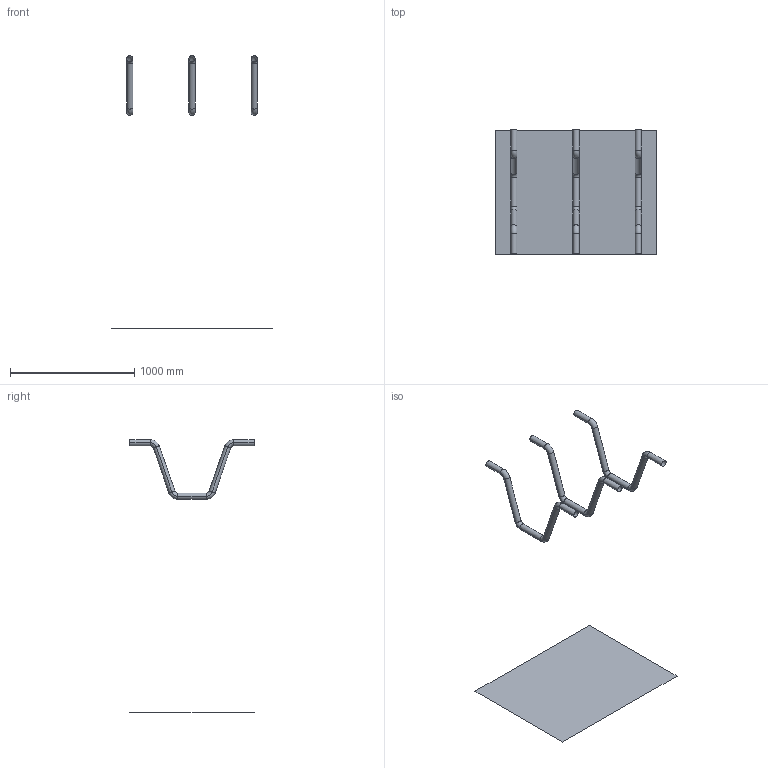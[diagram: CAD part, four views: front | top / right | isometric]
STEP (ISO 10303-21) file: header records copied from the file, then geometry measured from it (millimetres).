
FILE_DESCRIPTION(('CATIA V5 STEP Exchange'),'2;1');
FILE_NAME('C:\_Andres\UNIVERSIDAD\IQS\ASIGNATURAS\DAO\EXF\EXF-16172c\2inicio\Salazar_Martin_Ej08_v30.stp','2017-03-05T21:54:57+00:00',('none'),('none'),'CATIA Version 5-6 Release 2014 SP1 HF18','CATIA V5 STEP AP203','none');
FILE_SCHEMA(('CONFIG_CONTROL_DESIGN'));
Length unit declared in the file: millimetre
Products named in the file (1): Salazar_Martin_Ej08_v30
Bounding box: 1300 x 1000 x 2195 mm (x, y, z)
Surface area: 2041612.8 mm2 (no closed solid volume)
Topology: 0 solids, 4 shells, 55 faces, 118 edges, 64 vertices
Faces by surface type: cylinder 30, torus 24, plane 1
Entity records: 1283 total; most frequent: ORIENTED_EDGE 220, CARTESIAN_POINT 208, DIRECTION 168, EDGE_CURVE 118, AXIS2_PLACEMENT_3D 110, CIRCLE 84, VERTEX_POINT 64, ADVANCED_FACE 55
